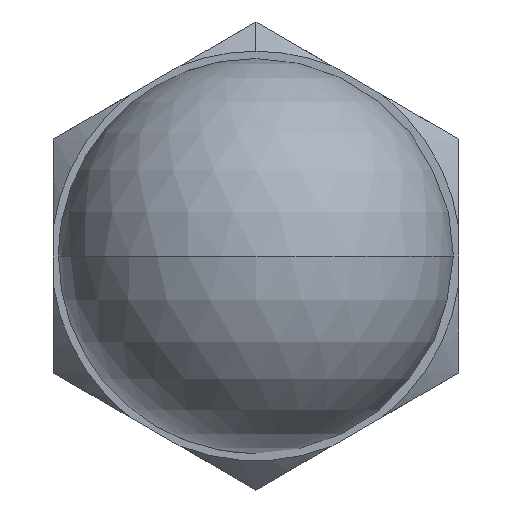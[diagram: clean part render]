
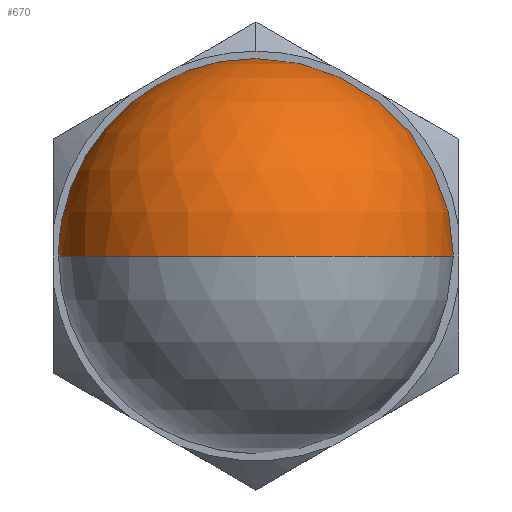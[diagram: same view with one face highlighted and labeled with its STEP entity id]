
A CAD part, front view. The second image highlights one B-rep face of the part: STEP entity #670.
In plain terms, the highlighted spherical face has radius 6.75 mm.
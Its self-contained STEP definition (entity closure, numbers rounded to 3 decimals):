
#17 = VERTEX_POINT ( 'NONE', #789 ) ;
#74 = DIRECTION ( 'NONE',  ( 0., 0., -1. ) ) ;
#96 = DIRECTION ( 'NONE',  ( -1., 0., 0. ) ) ;
#107 = CARTESIAN_POINT ( 'NONE',  ( 0., 11.781, 4.5 ) ) ;
#119 = AXIS2_PLACEMENT_3D ( 'NONE', #512, #610, #96 ) ;
#156 = SPHERICAL_SURFACE ( 'NONE', #119, 6.75 ) ;
#159 = CIRCLE ( 'NONE', #999, 6.75 ) ;
#194 = CIRCLE ( 'NONE', #752, 4.5 ) ;
#220 = EDGE_CURVE ( 'NONE', #443, #17, #1056, .T. ) ;
#235 = CARTESIAN_POINT ( 'NONE',  ( 0., 11.781, 0. ) ) ;
#247 = VERTEX_POINT ( 'NONE', #597 ) ;
#274 = EDGE_CURVE ( 'NONE', #247, #17, #159, .T. ) ;
#275 = ORIENTED_EDGE ( 'NONE', *, *, #274, .F. ) ;
#309 = ORIENTED_EDGE ( 'NONE', *, *, #438, .T. ) ;
#319 = DIRECTION ( 'NONE',  ( 0., 0., -1. ) ) ;
#325 = DIRECTION ( 'NONE',  ( 0., 0., 1. ) ) ;
#393 = CARTESIAN_POINT ( 'NONE',  ( -4.5, 11.781, 0. ) ) ;
#397 = DIRECTION ( 'NONE',  ( 0., -1., 0. ) ) ;
#438 = EDGE_CURVE ( 'NONE', #247, #812, #728, .T. ) ;
#443 = VERTEX_POINT ( 'NONE', #393 ) ;
#446 = EDGE_CURVE ( 'NONE', #812, #443, #194, .T. ) ;
#485 = EDGE_LOOP ( 'NONE', ( #275, #309, #808, #1014 ) ) ;
#512 = CARTESIAN_POINT ( 'NONE',  ( 0., 6.75, 0. ) ) ;
#586 = CARTESIAN_POINT ( 'NONE',  ( 0., 6.75, 0. ) ) ;
#597 = CARTESIAN_POINT ( 'NONE',  ( 4.5, 11.781, 0. ) ) ;
#610 = DIRECTION ( 'NONE',  ( 0., 0., -1. ) ) ;
#620 = AXIS2_PLACEMENT_3D ( 'NONE', #953, #397, #1028 ) ;
#670 = ADVANCED_FACE ( 'NONE', ( #843 ), #156, .T. ) ;
#683 = DIRECTION ( 'NONE',  ( -1., 0., 0. ) ) ;
#728 = CIRCLE ( 'NONE', #620, 4.5 ) ;
#752 = AXIS2_PLACEMENT_3D ( 'NONE', #235, #872, #319 ) ;
#789 = CARTESIAN_POINT ( 'NONE',  ( 0., 0., 0. ) ) ;
#808 = ORIENTED_EDGE ( 'NONE', *, *, #446, .T. ) ;
#812 = VERTEX_POINT ( 'NONE', #107 ) ;
#843 = FACE_OUTER_BOUND ( 'NONE', #485, .T. ) ;
#872 = DIRECTION ( 'NONE',  ( 0., -1., 0. ) ) ;
#879 = CARTESIAN_POINT ( 'NONE',  ( 0., 6.75, 0. ) ) ;
#953 = CARTESIAN_POINT ( 'NONE',  ( 0., 11.781, 0. ) ) ;
#962 = DIRECTION ( 'NONE',  ( 1., 0., 0. ) ) ;
#999 = AXIS2_PLACEMENT_3D ( 'NONE', #586, #74, #683 ) ;
#1014 = ORIENTED_EDGE ( 'NONE', *, *, #220, .T. ) ;
#1028 = DIRECTION ( 'NONE',  ( 0., 0., -1. ) ) ;
#1042 = AXIS2_PLACEMENT_3D ( 'NONE', #879, #325, #962 ) ;
#1056 = CIRCLE ( 'NONE', #1042, 6.75 ) ;
